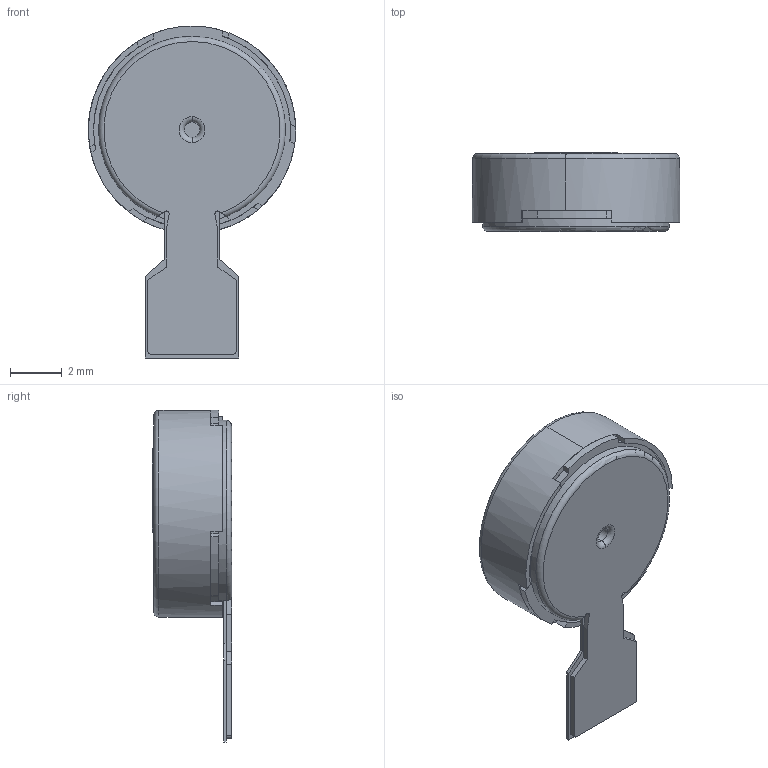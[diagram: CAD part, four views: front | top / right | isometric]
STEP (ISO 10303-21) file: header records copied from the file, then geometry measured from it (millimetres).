
FILE_DESCRIPTION(('FreeCAD Model'),'2;1');
FILE_NAME('C:/Users/itrya/Desktop/202009253D图CPR/VC0830B029L/VC0830B029L--.step' ,'2020-09-25T12:17:45',('Author'),(''), 'Open CASCADE STEP processor 7.3','FreeCAD','Unknown');
FILE_SCHEMA(('AUTOMOTIVE_DESIGN { 1 0 10303 214 1 1 1 1 }'));
Length unit declared in the file: millimetre
Products named in the file (8): VC0830B029L_ASM; 0827T3_1_1; FP3000_1_1; 08300001_1_1; 08BB009; 08BB; 08BB001; 08BB002
Assembly tree (7 placements, depth 3):
  VC0830B029L_ASM
    0827T3_1_1
    FP3000_1_1
    08300001_1_1
    08BB009
      08BB
      08BB001
      08BB002
Bounding box: 8 x 3.05 x 12.8 mm (x, y, z)
Volume: 44 mm3; surface area: 453.6 mm2
Topology: 6 solids, 10 shells, 309 faces, 858 edges, 573 vertices
Faces by surface type: plane 182, cylinder 113, torus 10, cone 4
Entity records: 10198 total; most frequent: CARTESIAN_POINT 1824, DIRECTION 1759, ORIENTED_EDGE 1716, EDGE_CURVE 858, AXIS2_PLACEMENT_3D 596, VERTEX_POINT 573, LINE 567, VECTOR 567
